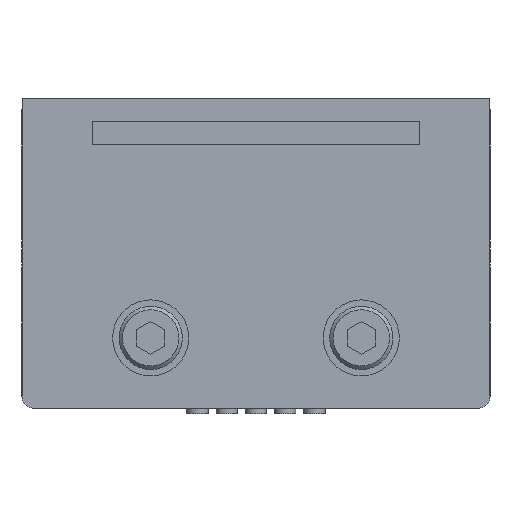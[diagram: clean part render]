
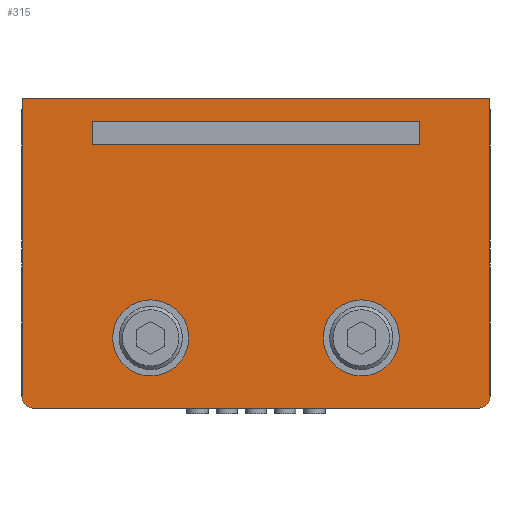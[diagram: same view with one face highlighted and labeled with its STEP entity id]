
A CAD part, front view. The second image highlights one B-rep face of the part: STEP entity #315.
In plain terms, the highlighted planar face has unit normal (0, -1, 0).
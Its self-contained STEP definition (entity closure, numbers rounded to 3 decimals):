
#315=ADVANCED_FACE('',(#908,#909,#910,#911),#912,.F.);
#908=FACE_BOUND('',#1933,.T.);
#909=FACE_BOUND('',#1934,.T.);
#910=FACE_BOUND('',#1935,.T.);
#911=FACE_OUTER_BOUND('',#1936,.T.);
#912=PLANE('',#1937);
#1933=EDGE_LOOP('',(#2958));
#1934=EDGE_LOOP('',(#2959));
#1935=EDGE_LOOP('',(#2960,#2961,#2962,#2963));
#1936=EDGE_LOOP('',(#2964,#2965,#2966,#2967,#2968,#2969));
#1937=AXIS2_PLACEMENT_3D('',#2970,#2971,#2972);
#2958=ORIENTED_EDGE('',*,*,#5069,.F.);
#2959=ORIENTED_EDGE('',*,*,#5070,.F.);
#2960=ORIENTED_EDGE('',*,*,#5071,.T.);
#2961=ORIENTED_EDGE('',*,*,#5072,.T.);
#2962=ORIENTED_EDGE('',*,*,#5073,.F.);
#2963=ORIENTED_EDGE('',*,*,#5074,.T.);
#2964=ORIENTED_EDGE('',*,*,#5075,.T.);
#2965=ORIENTED_EDGE('',*,*,#5076,.T.);
#2966=ORIENTED_EDGE('',*,*,#5077,.T.);
#2967=ORIENTED_EDGE('',*,*,#5078,.T.);
#2968=ORIENTED_EDGE('',*,*,#5079,.F.);
#2969=ORIENTED_EDGE('',*,*,#5080,.F.);
#2970=CARTESIAN_POINT('',(-20.0,-41.0,15.5));
#2971=DIRECTION('',(-0.0,1.0,0.0));
#2972=DIRECTION('',(1.0,0.0,0.0));
#5069=EDGE_CURVE('',#5850,#5850,#5851,.T.);
#5070=EDGE_CURVE('',#5852,#5852,#5853,.T.);
#5071=EDGE_CURVE('',#5854,#5855,#5856,.T.);
#5072=EDGE_CURVE('',#5855,#5857,#5858,.T.);
#5073=EDGE_CURVE('',#5859,#5857,#5860,.T.);
#5074=EDGE_CURVE('',#5859,#5854,#5861,.T.);
#5075=EDGE_CURVE('',#5862,#5863,#5864,.T.);
#5076=EDGE_CURVE('',#5863,#5865,#5866,.T.);
#5077=EDGE_CURVE('',#5865,#5867,#5868,.T.);
#5078=EDGE_CURVE('',#5867,#5869,#5870,.T.);
#5079=EDGE_CURVE('',#5871,#5869,#5872,.T.);
#5080=EDGE_CURVE('',#5862,#5871,#5873,.T.);
#5850=VERTEX_POINT('',#6995);
#5851=CIRCLE('',#6996,3.25);
#5852=VERTEX_POINT('',#6997);
#5853=CIRCLE('',#6998,3.25);
#5854=VERTEX_POINT('',#6999);
#5855=VERTEX_POINT('',#7000);
#5856=LINE('',#7001,#7002);
#5857=VERTEX_POINT('',#7003);
#5858=LINE('',#7004,#7005);
#5859=VERTEX_POINT('',#7006);
#5860=LINE('',#7007,#7008);
#5861=LINE('',#7009,#7010);
#5862=VERTEX_POINT('',#7011);
#5863=VERTEX_POINT('',#7012);
#5864=LINE('',#7013,#7014);
#5865=VERTEX_POINT('',#7015);
#5866=CIRCLE('',#7016,1.0);
#5867=VERTEX_POINT('',#7017);
#5868=LINE('',#7018,#7019);
#5869=VERTEX_POINT('',#7020);
#5870=CIRCLE('',#7021,1.0);
#5871=VERTEX_POINT('',#7022);
#5872=LINE('',#7023,#7024);
#5873=LINE('',#7025,#7026);
#6995=CARTESIAN_POINT('',(9.0,-41.0,-6.25));
#6996=AXIS2_PLACEMENT_3D('',#8428,#8429,#8430);
#6997=CARTESIAN_POINT('',(-9.0,-41.0,-6.25));
#6998=AXIS2_PLACEMENT_3D('',#8431,#8432,#8433);
#6999=CARTESIAN_POINT('',(-14.0,-41.0,13.5));
#7000=CARTESIAN_POINT('',(-14.0,-41.0,15.5));
#7001=CARTESIAN_POINT('',(-14.0,-41.0,13.5));
#7002=VECTOR('',#8434,1.0);
#7003=CARTESIAN_POINT('',(14.0,-41.,15.5));
#7004=CARTESIAN_POINT('',(-20.,-41.,15.5));
#7005=VECTOR('',#8435,1.0);
#7006=CARTESIAN_POINT('',(14.0,-41.0,13.5));
#7007=CARTESIAN_POINT('',(14.0,-41.0,13.5));
#7008=VECTOR('',#8436,1.0);
#7009=CARTESIAN_POINT('',(14.0,-41.0,13.5));
#7010=VECTOR('',#8437,1.0);
#7011=CARTESIAN_POINT('',(-20.,-41.,17.5));
#7012=CARTESIAN_POINT('',(-20.0,-41.0,-8.));
#7013=CARTESIAN_POINT('',(-20.0,-41.0,15.5));
#7014=VECTOR('',#8438,1.0);
#7015=CARTESIAN_POINT('',(-19.0,-41.0,-9.));
#7016=AXIS2_PLACEMENT_3D('',#8439,#8440,#8441);
#7017=CARTESIAN_POINT('',(19.0,-41.0,-9.));
#7018=CARTESIAN_POINT('',(-20.0,-41.0,-9.));
#7019=VECTOR('',#8442,1.0);
#7020=CARTESIAN_POINT('',(20.0,-41.0,-8.));
#7021=AXIS2_PLACEMENT_3D('',#8443,#8444,#8445);
#7022=CARTESIAN_POINT('',(20.,-41.,17.5));
#7023=CARTESIAN_POINT('',(20.0,-41.0,15.5));
#7024=VECTOR('',#8446,1.0);
#7025=CARTESIAN_POINT('',(-20.,-41.,17.5));
#7026=VECTOR('',#8447,1.0);
#8428=CARTESIAN_POINT('',(9.0,-41.0,-3.));
#8429=DIRECTION('',(0.0,-1.0,0.));
#8430=DIRECTION('',(0.0,0.,-1.0));
#8431=CARTESIAN_POINT('',(-9.0,-41.0,-3.));
#8432=DIRECTION('',(0.0,-1.0,0.));
#8433=DIRECTION('',(0.0,0.,-1.0));
#8434=DIRECTION('',(0.0,0.0,1.0));
#8435=DIRECTION('',(1.0,0.,0.));
#8436=DIRECTION('',(0.0,0.0,1.0));
#8437=DIRECTION('',(-1.0,0.0,0.0));
#8438=DIRECTION('',(0.0,0.0,-1.0));
#8439=CARTESIAN_POINT('',(-19.0,-41.0,-8.));
#8440=DIRECTION('',(0.0,-1.0,0.0));
#8441=DIRECTION('',(0.0,0.0,-1.0));
#8442=DIRECTION('',(1.0,0.0,0.0));
#8443=CARTESIAN_POINT('',(19.0,-41.0,-8.));
#8444=DIRECTION('',(0.0,-1.0,0.0));
#8445=DIRECTION('',(0.0,0.0,-1.0));
#8446=DIRECTION('',(0.0,0.0,-1.0));
#8447=DIRECTION('',(1.0,0.,0.));
